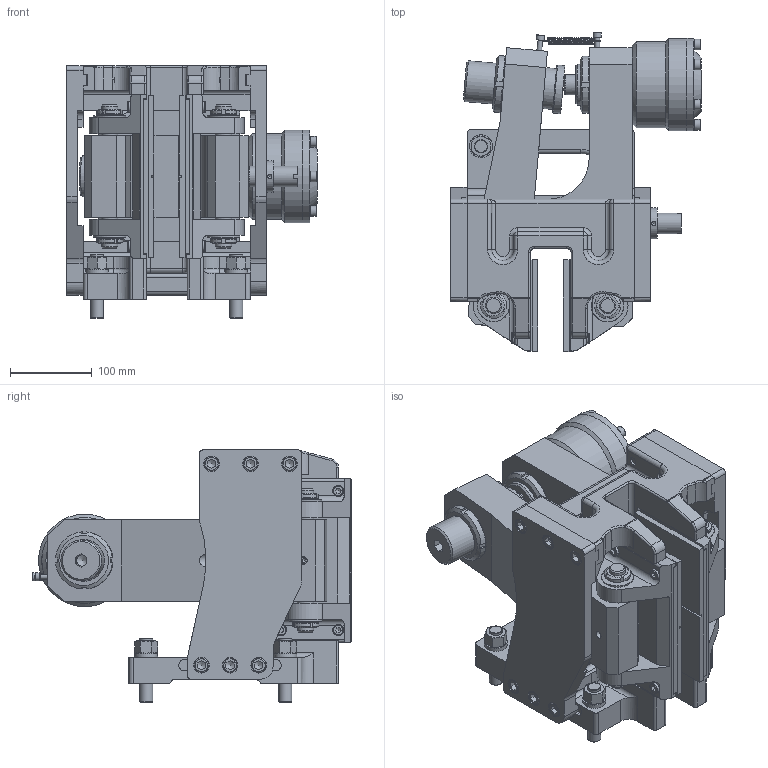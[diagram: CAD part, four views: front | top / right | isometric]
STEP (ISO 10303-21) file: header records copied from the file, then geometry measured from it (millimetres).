
FILE_DESCRIPTION(/* description */ ('','CAx-IF Rec.Pracs.---Representation and Presentation of Product Manufacturing Information (PMI)---4.0---2014-10-13'),/* implementation_level */ '2;1');
FILE_NAME(/* name */ 'X:\INVENTOR\DISEGNI\19_Pinze\STEP x Sito\OLEO-POSITIVE\19_26_070_05 POT070_30.stp',/* time_stamp */ '2018-10-26T08:36:23+02:00',/* author */ ('stefano'),/* organization */ (''),/* preprocessor_version */ 'ST-DEVELOPER v17',/* originating_system */ 'Autodesk Inventor 2018',/* authorisation */ '');
FILE_SCHEMA (('AP242_MANAGED_MODEL_BASED_3D_ENGINEERING_MIM_LF { 1 0 10303 442 1 1 4 }'));
Products named in the file (1): 19_26_070_05 POT070_30_Substitute_2
Bounding box: 306.1 x 390 x 308 mm (x, y, z)
Volume: 10166498.4 mm3; surface area: 950607.6 mm2
Topology: 1 solids, 1 shells, 1460 faces, 4009 edges, 2615 vertices
Faces by surface type: plane 768, cylinder 364, cone 174, torus 122, bspline 24, sphere 8
Full cylindrical faces by diameter (mm): 1.2 x2, 5.25 x4, 6 x2, 8 x9, 8.376 x1, 8.5 x8, 8.917 x1, 9.188 x1, 10 x2, 10.106 x8, 10.647 x2, 11.445 x1, 12 x13, 12.5 x12, 13 x22, 13.5 x8, 14 x1, 16 x8, 17 x4, 18 x14, 19 x12, 19.5 x1, 20 x12, 22 x6, 25 x5, 28 x1, 33.6 x1, 38 x1, 50 x3, 59 x1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
Entity records: 54807 total; most frequent: CARTESIAN_POINT 16670, ORIENTED_EDGE 7928, DIRECTION 7741, EDGE_CURVE 3964, AXIS2_PLACEMENT_3D 2927, VERTEX_POINT 2615, LINE 1887, VECTOR 1887
